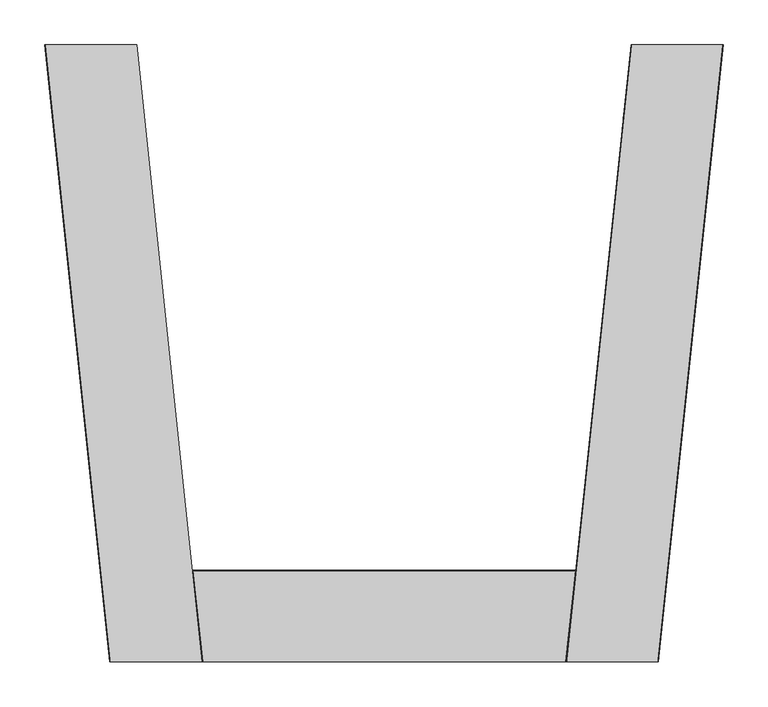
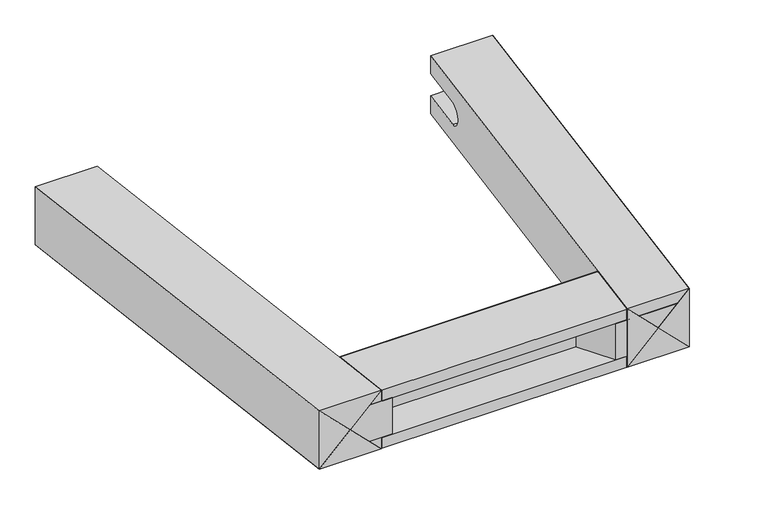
"""IFC4 building model written with IfcOpenShell, lengths in millimetres: proxy geometry, IMPRESS^TABLE 2_24in BASE_TABLE BASE ASSY 48X28X501."""

import ifcopenshell
import ifcopenshell.guid

model = None  # the IFC model being written
_history = None  # IfcOwnerHistory: only IFC2X3 demands one
_inside = {}  # id of a spatial element -> (the spatial element, [elements in it])
_under = {}  # id of a project, library or spatial element -> (it, [spatial elements below it])
_declared = {}  # id of a project -> (the project, [libraries it declares])
_typed = {}  # id of a type object -> (the type object, [elements of that type])
_made_of = {}  # id of a material, layer set ... -> (it, [elements and type objects made of it])


def new_model(schema):
    """Start an empty IFC model of exactly this schema.

    Asked for "IFC4X3", IfcOpenShell would pick the latest addendum, in which some entities
    have other attributes; the version numbers below select the first issue.
    IFC2X3 requires an IfcOwnerHistory on every rooted entity: one is made here for all.
    """
    global model, _history
    if schema == "IFC4X3":
        model = ifcopenshell.file(schema_version=(4, 3, 0, 0))
    else:
        model = ifcopenshell.file(schema=schema)
    _inside.clear()
    _under.clear()
    _declared.clear()
    _typed.clear()
    _made_of.clear()
    _history = None
    if model.schema == "IFC2X3":
        org = make("IfcOrganization", Name="unknown")
        user = make(
            "IfcPersonAndOrganization",
            ThePerson=make("IfcPerson", FamilyName="unknown"),
            TheOrganization=org,
        )
        app = make(
            "IfcApplication",
            ApplicationDeveloper=org,
            Version="unknown",
            ApplicationFullName="unknown",
            ApplicationIdentifier="unknown",
        )
        _history = make(
            "IfcOwnerHistory",
            OwningUser=user,
            OwningApplication=app,
            ChangeAction="ADDED",
            CreationDate=0,
        )
    return model


def make(cls, **values):
    """One entity of the class cls with the attributes given. An attribute that is None is left unset."""
    return model.create_entity(
        cls, **{name: value for name, value in values.items() if value is not None}
    )


def rooted(cls, **values):
    """An entity with a GlobalId (a new one), such as an element, a storey or a relation."""
    return make(cls, GlobalId=ifcopenshell.guid.new(), OwnerHistory=_history, **values)


def si_unit(unit_type, name, prefix=None):
    """IfcSIUnit, for example si_unit("LENGTHUNIT", "METRE", prefix="MILLI")."""
    return make("IfcSIUnit", UnitType=unit_type, Prefix=prefix, Name=name)


def assignment(units):
    """IfcUnitAssignment: the units of a project."""
    return None if units is None else make("IfcUnitAssignment", Units=units)


def point(xyz):
    """IfcCartesianPoint."""
    return None if xyz is None else make("IfcCartesianPoint", Coordinates=xyz)


def direction(xyz):
    """IfcDirection."""
    return None if xyz is None else make("IfcDirection", DirectionRatios=xyz)


def frame(location, z_axis=None, x_axis=None):
    """IfcAxis2Placement3D, a coordinate frame: its origin and axes. An axis left out is left unset."""
    return make(
        "IfcAxis2Placement3D",
        Location=point(location),
        Axis=direction(z_axis),
        RefDirection=direction(x_axis),
    )


def origin():
    """The frame at (0, 0, 0) with its axes left unset."""
    return frame((0.0, 0.0, 0.0))


def place(relative_to, where):
    """IfcLocalPlacement: puts the frame where relative to a parent placement (None: the world)."""
    return make(
        "IfcLocalPlacement", PlacementRelTo=relative_to, RelativePlacement=where
    )


def context(
    kind, dimensions, precision=None, world=None, true_north=None, identifier=None
):
    """IfcGeometricRepresentationContext, for example the 3D "Model" context."""
    return make(
        "IfcGeometricRepresentationContext",
        ContextIdentifier=identifier,
        ContextType=kind,
        CoordinateSpaceDimension=dimensions,
        Precision=precision,
        WorldCoordinateSystem=world,
        TrueNorth=true_north,
    )


def project(units=None, contexts=None):
    """IfcProject with its units and contexts."""
    return rooted(
        "IfcProject",
        Name="project",
        RepresentationContexts=contexts,
        UnitsInContext=assignment(units),
    )


def spatial(cls, under=None, at=None, **own):
    """A site, building, storey or space (cls), placed at a placement, below another one or the project."""
    s = rooted(cls, ObjectPlacement=at, **own)
    if under is not None:
        _under.setdefault(under.id(), (under, []))[1].append(s)
    return s


def polyline(points):
    """IfcPolyline through the points."""
    return make("IfcPolyline", Points=[point(p) for p in points])


def circle_curve(where, radius):
    """IfcCircle in the frame where."""
    return make("IfcCircle", Position=where, Radius=radius)


def ellipse_curve(where, semi_axis1, semi_axis2):
    """IfcEllipse in the frame where."""
    return make(
        "IfcEllipse", Position=where, SemiAxis1=semi_axis1, SemiAxis2=semi_axis2
    )


def outline(outer, holes=None, kind="AREA"):
    """IfcArbitraryClosedProfileDef: a profile drawn as a closed curve; with holes, ...WithVoids."""
    if holes is None:
        return make("IfcArbitraryClosedProfileDef", ProfileType=kind, OuterCurve=outer)
    return make(
        "IfcArbitraryProfileDefWithVoids",
        ProfileType=kind,
        OuterCurve=outer,
        InnerCurves=holes,
    )


def extrude(swept, where, along, depth):
    """IfcExtrudedAreaSolid: the profile swept, set in the frame where, extruded along a direction by depth."""
    return make(
        "IfcExtrudedAreaSolid",
        SweptArea=swept,
        Position=where,
        ExtrudedDirection=direction(along),
        Depth=depth,
    )


def faces_of(points, faces, orient=None, outer=None):
    """IfcFace entities. A face is a list of loops; a loop is a list of indices into points, from 0.

    orient and outer hold one flag for each loop. By default every Orientation is true, the
    first loop of a face is its IfcFaceOuterBound and the others are IfcFaceBound.
    """
    made = []
    for i, loops in enumerate(faces):
        bounds = []
        for j, loop in enumerate(loops):
            is_outer = j == 0 if outer is None else outer[i][j]
            bounds.append(
                make(
                    "IfcFaceOuterBound" if is_outer else "IfcFaceBound",
                    Bound=make("IfcPolyLoop", Polygon=[points[k] for k in loop]),
                    Orientation=True if orient is None else orient[i][j],
                )
            )
        made.append(make("IfcFace", Bounds=bounds))
    return made


def faceted_brep(points, faces, orient=None, outer=None, voids=None):
    """IfcFacetedBrep: a solid bounded by flat faces; with voids (closed shells), ...WithVoids."""
    shared = [point(p) for p in points]
    hull = make("IfcClosedShell", CfsFaces=faces_of(shared, faces, orient, outer))
    if voids is None:
        return make("IfcFacetedBrep", Outer=hull)
    return make(
        "IfcFacetedBrepWithVoids",
        Outer=hull,
        Voids=[
            make(cls, CfsFaces=faces_of(shared, fs, o, b)) for cls, fs, o, b in voids
        ],
    )


def shape(context_of_items, identifier, shape_type, items):
    """IfcShapeRepresentation: the items that make up one representation, for example the "Body"."""
    return make(
        "IfcShapeRepresentation",
        ContextOfItems=context_of_items,
        RepresentationIdentifier=identifier,
        RepresentationType=shape_type,
        Items=items,
    )


def source(mapping_origin, context_of_items, identifier, shape_type, items):
    """IfcRepresentationMap: a shape defined once, which mapped items show again and again."""
    return make(
        "IfcRepresentationMap",
        MappingOrigin=mapping_origin,
        MappedRepresentation=shape(context_of_items, identifier, shape_type, items),
    )


def transform(
    local_origin,
    x_axis=None,
    y_axis=None,
    z_axis=None,
    scale=None,
    scale2=None,
    scale3=None,
    uniform=True,
):
    """IfcCartesianTransformationOperator3D, or its non-uniform kind. x_axis, y_axis, z_axis: its Axis1, 2, 3."""
    if uniform:
        return make(
            "IfcCartesianTransformationOperator3D",
            Axis1=direction(x_axis),
            Axis2=direction(y_axis),
            LocalOrigin=point(local_origin),
            Scale=scale,
            Axis3=direction(z_axis),
        )
    return make(
        "IfcCartesianTransformationOperator3DnonUniform",
        Axis1=direction(x_axis),
        Axis2=direction(y_axis),
        LocalOrigin=point(local_origin),
        Scale=scale,
        Axis3=direction(z_axis),
        Scale2=scale2,
        Scale3=scale3,
    )


def mapped(mapping_source, mapping_target):
    """IfcMappedItem: shows the shape of a source again, moved by a transform."""
    return make(
        "IfcMappedItem", MappingSource=mapping_source, MappingTarget=mapping_target
    )


def made_of(thing, what):
    """Note that an element or type object is made of a material, layer set ...; save() writes the relation."""
    if what is not None:
        _made_of.setdefault(what.id(), (what, []))[1].append(thing)
    return thing


def element(
    cls,
    number,
    at=None,
    inside=None,
    cuts=None,
    type_object=None,
    material=None,
    context=None,
    identifier="Body",
    shape_type=None,
    held_by="IfcProductDefinitionShape",
    body=None,
    shapes=None,
    **own,
):
    """One element of the class cls, such as IfcWall. Its Tag is "e" and its number.

    at: its placement. inside: the storey or other place that contains it. cuts: it is an
    opening in that element (IfcRelVoidsElement). A single representation is given by context,
    identifier, shape_type and body (its items); several are given by shapes. held_by: the class
    of the entity that holds the representations. save() writes the other relations.
    """
    e = rooted(cls, Tag="e%d" % number, ObjectPlacement=at, **own)
    if body is not None:
        shapes = [shape(context, identifier, shape_type, body)]
    if shapes is not None:
        e.Representation = make(held_by, Representations=shapes)
    if inside is not None:
        _inside.setdefault(inside.id(), (inside, []))[1].append(e)
    if cuts is not None:
        rooted(
            "IfcRelVoidsElement", RelatingBuildingElement=cuts, RelatedOpeningElement=e
        )
    if type_object is not None:
        _typed.setdefault(type_object.id(), (type_object, []))[1].append(e)
    return made_of(e, material)


def aggregate(whole, parts):
    """IfcRelAggregates: a whole, such as a stair, and the parts it consists of."""
    return rooted("IfcRelAggregates", RelatingObject=whole, RelatedObjects=parts)


def save(model, path):
    """Write the relations noted so far, then the file.

    IfcRelAggregates (storeys below a building ...), IfcRelContainedInSpatialStructure (elements
    in a storey), IfcRelDefinesByType, IfcRelAssociatesMaterial and IfcRelDeclares: one each for
    every whole, place, type object, material and project.
    """
    for whole, parts in _under.values():
        aggregate(whole, parts)
    for where, things in _inside.values():
        rooted(
            "IfcRelContainedInSpatialStructure",
            RelatedElements=things,
            RelatingStructure=where,
        )
    for kind, things in _typed.values():
        rooted("IfcRelDefinesByType", RelatedObjects=things, RelatingType=kind)
    for what, things in _made_of.values():
        rooted("IfcRelAssociatesMaterial", RelatedObjects=things, RelatingMaterial=what)
    for by, libraries in _declared.values():
        rooted("IfcRelDeclares", RelatingContext=by, RelatedDefinitions=libraries)
    model.write(path)


def plane_surface(at):
    """IfcPlane: the flat surface through the origin of the frame at, square to its z axis."""
    return make("IfcPlane", Position=at)


def revolved_surface(curve, axis_point, axis_direction):
    """IfcSurfaceOfRevolution: the curve turned about the line through axis_point along axis_direction."""
    return make(
        "IfcSurfaceOfRevolution",
        SweptCurve=make("IfcArbitraryOpenProfileDef", ProfileType="CURVE", Curve=curve),
        AxisPosition=make("IfcAxis1Placement", Location=point(axis_point), Axis=direction(axis_direction)),
    )


def advanced_brep(points, edges, surfaces, faces):
    """IfcAdvancedBrep: a solid bounded by faces that lie on surfaces and meet in shared edges.

    An edge is (start, end): straight between two places in points (the first is 0);
    or (start, end, curve); or (start, end, curve, False) where it runs against its curve.
    A face is (place in surfaces, loops), or (place, loops, False) where it looks against
    its surface's normal. A loop lists edges by number (the first is 1), with a minus sign
    where the edge is run from its end to its start. The first loop is the outer one.
    """
    corners = [point(p) for p in points]
    vertices = [make("IfcVertexPoint", VertexGeometry=c) for c in corners]
    made = []
    for start, end, *more in edges:
        made.append(
            make(
                "IfcEdgeCurve",
                EdgeStart=vertices[start],
                EdgeEnd=vertices[end],
                EdgeGeometry=more[0] if more else make("IfcPolyline", Points=[corners[start], corners[end]]),
                SameSense=more[1] if len(more) > 1 else True,
            )
        )
    hull = []
    for where, loops, *sense in faces:
        bounds = []
        for j, loop in enumerate(loops):
            ring = [make("IfcOrientedEdge", EdgeElement=made[abs(k) - 1], Orientation=k > 0) for k in loop]
            bounds.append(
                make(
                    "IfcFaceOuterBound" if j == 0 else "IfcFaceBound",
                    Bound=make("IfcEdgeLoop", EdgeList=ring),
                    Orientation=True,
                )
            )
        hull.append(make("IfcAdvancedFace", Bounds=bounds, FaceSurface=surfaces[where], SameSense=sense[0] if sense else True))
    return make("IfcAdvancedBrep", Outer=make("IfcClosedShell", CfsFaces=hull))


def generic_models_91f66b10(model_context):
    return source(origin(), model_context, "Body", "SolidModel", [
        faceted_brep([(-274.7208433, 685.8, -50.8), (-325.8006639, 685.8, 0.0), (-253.7201794, 0.0, 0.0), (-202.6403588, 0.0, -50.8), (-304.8, 0.0, -50.8), (-376.8804845, 685.8, -50.8)], [[[0, 1, 2, 3]], [[3, 2, 4]], [[1, 5, 4, 2]], [[1, 0, 5]], [[3, 4, 5, 0]]]),
        faceted_brep([(-304.8, 0.0, 50.8), (-253.7201794, 0.0, 0.0), (-325.8006639, 685.8, 0.0), (-376.8804845, 685.8, 50.8), (-376.8804845, 685.8, -50.8), (-304.8, 0.0, -50.8)], [[[0, 1, 2, 3]], [[3, 2, 4]], [[1, 5, 4, 2]], [[1, 0, 5]], [[5, 0, 3, 4]]]),
        faceted_brep([(-202.6403588, 0.0, 50.8), (-253.7201794, 0.0, 0.0), (-325.8006639, 685.8, 0.0), (-274.7208433, 685.8, 50.8), (-376.8804845, 685.8, 50.8), (-304.8, 0.0, 50.8)], [[[0, 1, 2, 3]], [[3, 2, 4]], [[1, 5, 4, 2]], [[1, 0, 5]], [[5, 0, 3, 4]]]),
        faceted_brep([(376.8804845, 685.8, 50.8), (325.8006639, 685.8, 0.0), (253.7201794, 0.0, 0.0), (304.8, 0.0, 50.8), (304.8, 0.0, -50.8), (376.8804845, 685.8, -50.8)], [[[0, 1, 2, 3]], [[3, 2, 4]], [[1, 5, 4, 2]], [[1, 0, 5]], [[5, 0, 3, 4]]]),
        advanced_brep(
        [(202.6403588, 0.0, 50.8), (253.7201794, 0.0, 0.0), (315.1067179, 584.0538996, 0.0), (298.152343, 604.9908089, 19.05), (306.6457312, 685.8, 19.05), (274.7208433, 685.8, 50.8), (202.6403588, 0.0, -50.8), (274.7208433, 685.8, 19.05), (266.5762728, 608.3095876, 19.05), (266.5762728, 608.3095876, -19.05), (274.7208433, 685.8, -19.05), (274.7208433, 685.8, -50.8), (306.6457312, 685.8, -19.05), (298.152343, 604.9908089, -19.05)],
        [
            (0, 1),
            (1, 2),
            (2, 3, ellipse_curve(frame((317.0979851, 602.9995417, 0.0), z_axis=(-0.7032331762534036, 0.07391278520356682, -0.707106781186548), x_axis=(0.7032331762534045, -0.07391278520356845, -0.707106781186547)), 26.9407684, 19.05)),
            (3, 4),
            (4, 5),
            (5, 0),
            (6, 0),
            (5, 7),
            (7, 8),
            (8, 9, circle_curve(frame((266.5762728, 608.3095876, 0.0), z_axis=(0.9945218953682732, -0.10452846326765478, 0.0), x_axis=(0.0, 0.0, -1.0)), 19.05)),
            (9, 10),
            (10, 11),
            (11, 6),
            (4, 7),
            (10, 12),
            (12, 11),
            (1, 6),
            (12, 13),
            (13, 2, ellipse_curve(frame((317.0979851, 602.9995417, 0.0), z_axis=(-0.7032331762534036, 0.07391278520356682, 0.707106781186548), x_axis=(0.7032331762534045, -0.07391278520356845, 0.707106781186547)), 26.9407684, 19.05)),
            (9, 13),
            (8, 3),
        ],
        [
            plane_surface(frame((279.966446, 644.5850695, 41.275), z_axis=(0.7032331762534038, -0.07391278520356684, 0.7071067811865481), x_axis=(0.7090462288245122, 0.0, -0.7051619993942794))),
            plane_surface(frame((272.0511958, 660.4, 0.0), z_axis=(-0.9945218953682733, 0.10452846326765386, 0.0), x_axis=(-0.10452846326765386, -0.9945218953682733, 0.0))),
            plane_surface(frame((293.8757761, 685.8, 0.0), z_axis=(0.0, 1.0, 0.0), x_axis=(-1.0, 0.0, 0.0))),
            plane_surface(frame((279.966446, 644.5850695, -41.275), z_axis=(0.7032331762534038, -0.07391278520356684, -0.7071067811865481), x_axis=(-0.7090462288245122, 0.0, -0.7051619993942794))),
            plane_surface(frame((266.5762728, 608.3095876, -19.05), z_axis=(0.0, 0.0, 1.0), x_axis=(0.10452846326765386, 0.9945218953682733, 0.0))),
            revolved_surface(polyline([(336.04362722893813, 601.0082744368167, -19.05), (266.5762728, 608.3095876, -19.05)]), (266.5762728, 608.3095876, 0.0), (0.9945218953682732, -0.10452846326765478, 0.0)),
            plane_surface(frame((268.56754, 627.2552297, 19.05), z_axis=(0.0, 0.0, -1.0), x_axis=(-0.10452846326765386, -0.9945218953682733, 0.0))),
            plane_surface(frame((202.6403588, 0.0, 0.0), z_axis=(0.0, -1.0, 0.0), x_axis=(1.0, 0.0, 0.0))),
        ],
        [
            (0, [[1, 2, 3, 4, 5, 6]]),
            (1, [[7, -6, 8, 9, 10, 11, 12, 13]]),
            (2, [[-5, 14, -8]]),
            (2, [[-12, 15, 16]]),
            (3, [[-2, 17, -13, -16, 18, 19]]),
            (4, [[-18, -15, -11, 20]]),
            (5, [[-19, -20, -10, 21, -3]]),
            (6, [[-4, -21, -9, -14]]),
            (7, [[-1, -7, -17]]),
        ],
    ),
        faceted_brep([(202.6403588, 0.0, -50.8), (253.7201794, 0.0, 0.0), (325.8006639, 685.8, 0.0), (274.7208433, 685.8, -50.8), (376.8804845, 685.8, -50.8), (304.8, 0.0, -50.8)], [[[0, 1, 2, 3]], [[3, 2, 4]], [[1, 5, 4, 2]], [[1, 0, 5]], [[0, 3, 4, 5]]]),
        extrude(outline(polyline([(184.0450673, 0.0), (151.0494994, 57.15), (-151.0494994, 57.15), (-184.0450673, 0.0), (-285.6450673, 0.0), (-294.3214219, 82.55), (294.3214219, 82.55), (285.6450673, 0.0), (184.0450673, 0.0)])), frame((0.0, 0.0, -31.75), z_axis=(0.0, 0.0, 1.0), x_axis=(1.0, 0.0, 0.0)), (0.0, 0.0, 1.0), 63.5),
        faceted_brep([(-202.6403588, 0.0, -50.8), (-253.7201794, 0.0, 0.0), (-325.8006639, 685.8, 0.0), (-274.7208433, 685.8, -50.8), (-202.6403588, 0.0, 50.8), (-274.7208433, 685.8, 50.8)], [[[0, 1, 2, 3]], [[4, 0, 3, 5]], [[5, 3, 2]], [[2, 1, 4, 5]], [[1, 0, 4]]]),
        extrude(outline(polyline([(82.9112708, 19.05), (102.0662035, 0.0), (-0.0934377, 0.0), (-0.0934377, 19.05), (82.9112708, 19.05)])), frame((-202.6403588, 0.0, -50.8), z_axis=(0.9945218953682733, 0.10452846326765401, 0.0), x_axis=(-0.10452846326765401, 0.9945218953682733, 0.0)), (0.0, 0.0, 1.0), 0.889),
        faceted_brep([(210.4228166, 82.55, -31.75), (212.4250522, 101.6, -50.8), (-212.4250522, 101.6, -50.8), (-210.4228166, 82.55, -31.75), (-201.7464619, 0.0, -31.75), (201.7464619, 0.0, -31.75), (201.7464619, 0.0, -50.8), (-201.7464619, 0.0, -50.8)], [[[0, 1, 2, 3]], [[0, 3, 4, 5]], [[1, 0, 5, 6]], [[3, 2, 7, 4]], [[7, 6, 5, 4]], [[6, 7, 2, 1]]]),
        extrude(outline(polyline([(0.0934377, 0.0), (19.2483704, 19.05), (102.2530789, 19.05), (102.2530789, 0.0), (0.0934377, 0.0)])), frame((213.3189491, 101.6, -50.8), z_axis=(-0.9945218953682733, 0.10452846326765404, 0.0), x_axis=(-0.10452846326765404, -0.9945218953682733, 0.0)), (0.0, 0.0, 1.0), 0.889),
        extrude(outline(polyline([(0.0934377, 50.8), (19.2483704, 31.75), (19.2483704, -31.75), (0.0934377, -50.8), (0.0934377, 50.8)])), frame((-213.3189491, 101.6, 0.0), z_axis=(0.9945218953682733, 0.10452846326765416, 0.0), x_axis=(0.10452846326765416, -0.9945218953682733, 0.0)), (0.0, 0.0, 1.0), 0.889),
        faceted_brep([(-212.4250522, 101.6, 50.8), (-207.0857571, 50.8, 0.0), (207.0857571, 50.8, 0.0), (212.4250522, 101.6, 50.8), (212.4250522, 101.6, -50.8), (-212.4250522, 101.6, -50.8)], [[[0, 1, 2, 3]], [[3, 2, 4]], [[1, 5, 4, 2]], [[5, 0, 3, 4]], [[1, 0, 5]]]),
        extrude(outline(polyline([(-0.0934377, 31.75), (19.0614951, 50.8), (19.0614951, -50.8), (-0.0934377, -31.75), (-0.0934377, 31.75)])), frame((211.3167134, 82.55, 0.0), z_axis=(-0.9945218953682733, 0.10452846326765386, 0.0), x_axis=(0.10452846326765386, 0.9945218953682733, 0.0)), (0.0, 0.0, 1.0), 0.889),
        extrude(outline(polyline([(102.0662035, 0.0), (82.9112708, -19.05), (-0.0934377, -19.05), (-0.0934377, 0.0), (102.0662035, 0.0)])), frame((-202.6403588, 0.0, 50.8), z_axis=(0.9945218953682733, 0.10452846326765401, 0.0), x_axis=(-0.10452846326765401, 0.9945218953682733, 0.0)), (0.0, 0.0, 1.0), 0.889),
        faceted_brep([(212.4250522, 101.6, 50.8), (210.4228166, 82.55, 31.75), (-210.4228166, 82.55, 31.75), (-212.4250522, 101.6, 50.8), (201.7464619, 0.0, 31.75), (-201.7464619, 0.0, 31.75), (201.7464619, 0.0, 50.8), (-201.7464619, 0.0, 50.8)], [[[0, 1, 2, 3]], [[2, 1, 4, 5]], [[1, 0, 6, 4]], [[3, 2, 5, 7]], [[6, 7, 5, 4]], [[7, 6, 0, 3]]]),
        extrude(outline(polyline([(19.2483704, -19.05), (0.0934377, 0.0), (102.2530789, 0.0), (102.2530789, -19.05), (19.2483704, -19.05)])), frame((213.3189491, 101.6, 50.8), z_axis=(-0.9945218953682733, 0.10452846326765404, 0.0), x_axis=(-0.10452846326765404, -0.9945218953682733, 0.0)), (0.0, 0.0, 1.0), 0.889),
        faceted_brep([(274.7208433, 685.8, 50.8), (325.8006639, 685.8, 0.0), (253.7201794, 0.0, 0.0), (202.6403588, 0.0, 50.8), (304.8, 0.0, 50.8), (376.8804845, 685.8, 50.8)], [[[0, 1, 2, 3]], [[3, 2, 4]], [[1, 5, 4, 2]], [[1, 0, 5]], [[0, 3, 4, 5]]]),
    ])


if __name__ == "__main__":
    model = new_model("IFC4")
    model_context = context("Model", 3, world=origin())
    ifc_project = project(units=[si_unit("LENGTHUNIT", "METRE", prefix="MILLI")], contexts=[model_context])
    site = spatial("IfcSite", under=ifc_project)
    building = spatial("IfcBuilding", under=site)
    placement = place(None, origin())
    generic_models_shape = generic_models_91f66b10(model_context)
    element("IfcBuildingElementProxy", 1, Name="IMPRESS^TABLE 2_24in BASE_TABLE BASE ASSY 48X28X501", ObjectType="IMPRESS^TABLE 2_24in BASE_TABLE BASE ASSY 48X28X501", at=placement, inside=building, context=model_context, shape_type="MappedRepresentation", body=[
        mapped(generic_models_shape, transform((0.0, 0.0, 0.0), x_axis=(1.0, 0.0, 0.0), y_axis=(0.0, 1.0, 0.0), z_axis=(0.0, 0.0, 1.0))),
    ])
    save(model, "model.ifc")
